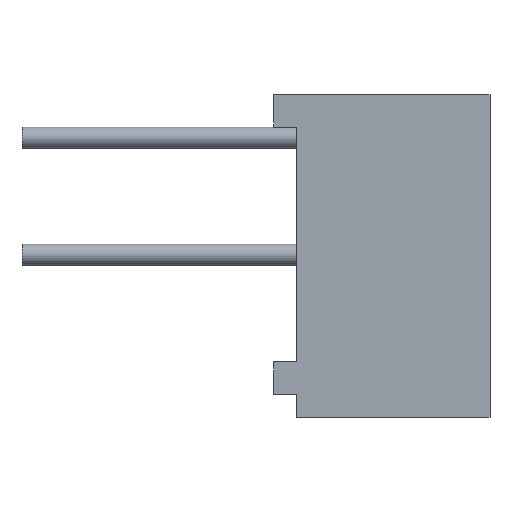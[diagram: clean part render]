
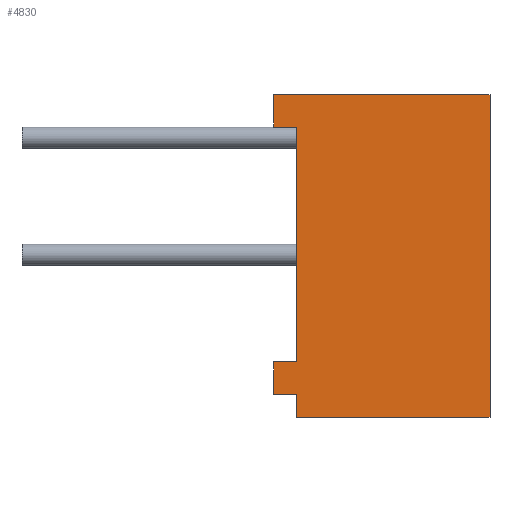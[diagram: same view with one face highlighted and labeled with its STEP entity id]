
A CAD part, left-side view. The second image highlights one B-rep face of the part: STEP entity #4830.
In plain terms, the highlighted planar face has unit normal (-1, 0, 0).
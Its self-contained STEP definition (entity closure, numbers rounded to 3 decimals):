
#260=LINE('',#7421,#656);
#264=LINE('',#7429,#660);
#279=LINE('',#7459,#675);
#283=LINE('',#7467,#679);
#286=LINE('',#7473,#682);
#445=LINE('',#7843,#841);
#449=LINE('',#7868,#845);
#450=LINE('',#7870,#846);
#454=LINE('',#7878,#850);
#455=LINE('',#7880,#851);
#656=VECTOR('',#5422,1000.);
#660=VECTOR('',#5426,1000.);
#675=VECTOR('',#5449,1000.);
#679=VECTOR('',#5457,1000.);
#682=VECTOR('',#5462,1000.);
#841=VECTOR('',#5783,1000.);
#845=VECTOR('',#5827,1000.);
#846=VECTOR('',#5830,1000.);
#850=VECTOR('',#5838,1000.);
#851=VECTOR('',#5839,1000.);
#1684=ORIENTED_EDGE('',*,*,#2325,.T.);
#1685=ORIENTED_EDGE('',*,*,#2124,.F.);
#1686=ORIENTED_EDGE('',*,*,#2105,.T.);
#1687=ORIENTED_EDGE('',*,*,#2307,.T.);
#1688=ORIENTED_EDGE('',*,*,#2330,.F.);
#1689=ORIENTED_EDGE('',*,*,#2331,.F.);
#1690=ORIENTED_EDGE('',*,*,#2326,.T.);
#1691=ORIENTED_EDGE('',*,*,#2131,.F.);
#1692=ORIENTED_EDGE('',*,*,#2109,.T.);
#1693=ORIENTED_EDGE('',*,*,#2128,.T.);
#2105=EDGE_CURVE('',#2507,#2506,#260,.T.);
#2109=EDGE_CURVE('',#2511,#2510,#264,.T.);
#2124=EDGE_CURVE('',#2507,#2521,#279,.T.);
#2128=EDGE_CURVE('',#2510,#2523,#283,.T.);
#2131=EDGE_CURVE('',#2511,#2525,#286,.T.);
#2307=EDGE_CURVE('',#2506,#2651,#445,.T.);
#2325=EDGE_CURVE('',#2523,#2521,#449,.T.);
#2326=EDGE_CURVE('',#2653,#2525,#450,.T.);
#2330=EDGE_CURVE('',#2655,#2651,#454,.T.);
#2331=EDGE_CURVE('',#2653,#2655,#455,.T.);
#2506=VERTEX_POINT('',#7420);
#2507=VERTEX_POINT('',#7422);
#2510=VERTEX_POINT('',#7428);
#2511=VERTEX_POINT('',#7430);
#2521=VERTEX_POINT('',#7457);
#2523=VERTEX_POINT('',#7466);
#2525=VERTEX_POINT('',#7471);
#2651=VERTEX_POINT('',#7842);
#2653=VERTEX_POINT('',#7871);
#2655=VERTEX_POINT('',#7879);
#2905=EDGE_LOOP('',(#1684,#1685,#1686,#1687,#1688,#1689,#1690,#1691,#1692,
#1693));
#3122=FACE_BOUND('',#2905,.T.);
#3299=PLANE('',#5039);
#4830=ADVANCED_FACE('',(#3122),#3299,.T.);
#5039=AXIS2_PLACEMENT_3D('',#7877,#5836,#5837);
#5422=DIRECTION('',(0.,0.,-1.));
#5426=DIRECTION('',(0.,0.,-1.));
#5449=DIRECTION('',(0.,1.,0.));
#5457=DIRECTION('',(0.,1.,0.));
#5462=DIRECTION('',(0.,1.,0.));
#5783=DIRECTION('',(0.,-1.,0.));
#5827=DIRECTION('',(0.,0.,-1.));
#5830=DIRECTION('',(0.,0.,-1.));
#5836=DIRECTION('',(-1.,0.,0.));
#5837=DIRECTION('',(0.,0.,1.));
#5838=DIRECTION('',(0.,0.,-1.));
#5839=DIRECTION('',(0.,-1.,0.));
#7420=CARTESIAN_POINT('',(-3.3,4.2,-3.5));
#7421=CARTESIAN_POINT('',(-3.3,4.2,-3.5));
#7422=CARTESIAN_POINT('',(-3.3,4.2,-3.));
#7428=CARTESIAN_POINT('',(-3.3,4.2,-2.3));
#7429=CARTESIAN_POINT('',(-3.3,4.2,2.8));
#7430=CARTESIAN_POINT('',(-3.3,4.2,2.8));
#7457=CARTESIAN_POINT('',(-3.3,4.7,-3.));
#7459=CARTESIAN_POINT('',(-3.3,4.2,-3.));
#7466=CARTESIAN_POINT('',(-3.3,4.7,-2.3));
#7467=CARTESIAN_POINT('',(-3.3,4.2,-2.3));
#7471=CARTESIAN_POINT('',(-3.3,4.7,2.8));
#7473=CARTESIAN_POINT('',(-3.3,4.2,2.8));
#7842=CARTESIAN_POINT('',(-3.3,0.,-3.5));
#7843=CARTESIAN_POINT('',(-3.3,4.7,-3.5));
#7868=CARTESIAN_POINT('',(-3.3,4.7,3.5));
#7870=CARTESIAN_POINT('',(-3.3,4.7,3.5));
#7871=CARTESIAN_POINT('',(-3.3,4.7,3.5));
#7877=CARTESIAN_POINT('',(-3.3,4.7,3.5));
#7878=CARTESIAN_POINT('',(-3.3,0.,3.5));
#7879=CARTESIAN_POINT('',(-3.3,0.,3.5));
#7880=CARTESIAN_POINT('',(-3.3,4.7,3.5));
